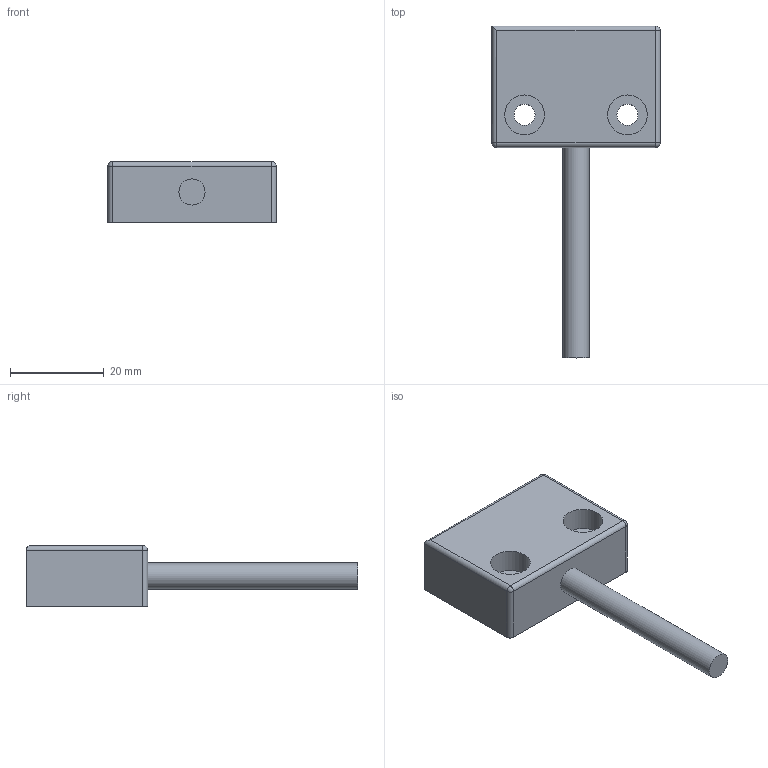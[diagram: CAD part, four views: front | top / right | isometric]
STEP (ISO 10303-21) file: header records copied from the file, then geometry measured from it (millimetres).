
FILE_DESCRIPTION(/* description */ ('Katalogmodell Elobau'),/* implementation_level */ '2;1');
FILE_NAME(/* name */ '153____A.stp',/* time_stamp */ '2014-04-25T09:42:29+02:00',/* author */ ('Elobau GmbH & Co. KG'),/* organization */ ('Elobau GmbH & Co. KG'),/* preprocessor_version */ 'ST-DEVELOPER v15',/* originating_system */ 'SIEMENS PLM Software NX 8.5',/* authorisation */ '');
FILE_SCHEMA (('AUTOMOTIVE_DESIGN { 1 0 10303 214 3 1 1 1 }'));
Length unit declared in the file: millimetre
Products named in the file (1): 153..._A
Bounding box: 36 x 71 x 13 mm (x, y, z)
Volume: 12420.1 mm3; surface area: 4634.1 mm2
Topology: 1 solids, 1 shells, 24 faces, 51 edges, 29 vertices
Faces by surface type: cylinder 12, plane 9, sphere 3
Full cylindrical faces by diameter (mm): 4.5 x2, 5.6 x1, 8.5 x2
Entity records: 621 total; most frequent: DIRECTION 115, CARTESIAN_POINT 95, ORIENTED_EDGE 84, AXIS2_PLACEMENT_3D 48, EDGE_CURVE 42, EDGE_LOOP 36, VERTEX_POINT 28, ADVANCED_FACE 24
